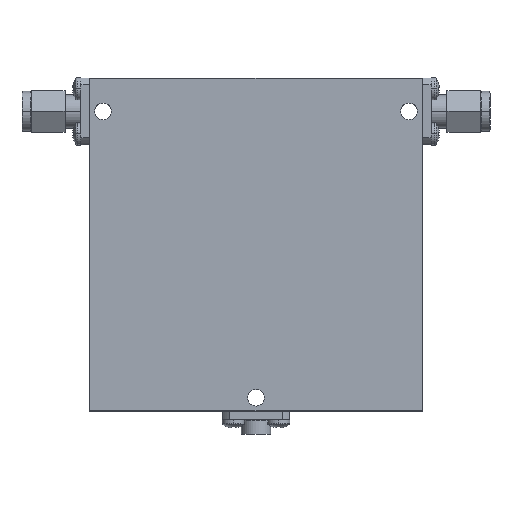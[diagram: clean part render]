
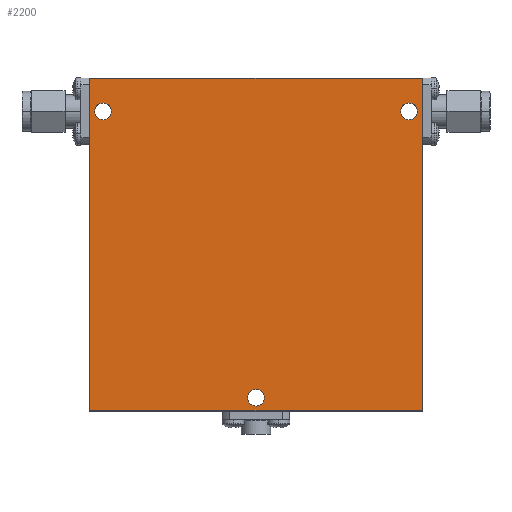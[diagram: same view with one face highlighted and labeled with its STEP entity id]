
A CAD part, top view. The second image highlights one B-rep face of the part: STEP entity #2200.
In plain terms, the highlighted planar face has unit normal (0, 0, 1).
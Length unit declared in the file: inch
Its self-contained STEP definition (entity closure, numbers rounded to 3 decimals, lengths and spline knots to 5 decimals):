
#47 = CARTESIAN_POINT ( 'NONE',  ( -1.25, 1.25, 0.275 ) ) ;
#88 = EDGE_CURVE ( 'NONE', #2143, #2482, #2778, .T. ) ;
#152 = ORIENTED_EDGE ( 'NONE', *, *, #88, .F. ) ;
#171 = VECTOR ( 'NONE', #2006, 39.37008 ) ;
#174 = FACE_BOUND ( 'NONE', #1370, .T. ) ;
#177 = VERTEX_POINT ( 'NONE', #2881 ) ;
#213 = VECTOR ( 'NONE', #3117, 39.37008 ) ;
#262 = DIRECTION ( 'NONE',  ( 0., 0., 1. ) ) ;
#304 = ORIENTED_EDGE ( 'NONE', *, *, #2964, .T. ) ;
#355 = CARTESIAN_POINT ( 'NONE',  ( 0., -1.15, 0.275 ) ) ;
#366 = CIRCLE ( 'NONE', #1404, 0.0625 ) ;
#547 = ORIENTED_EDGE ( 'NONE', *, *, #2634, .F. ) ;
#579 = DIRECTION ( 'NONE',  ( 1., 0., 0. ) ) ;
#586 = DIRECTION ( 'NONE',  ( 1., 0., 0. ) ) ;
#636 = AXIS2_PLACEMENT_3D ( 'NONE', #819, #2420, #1109 ) ;
#666 = CARTESIAN_POINT ( 'NONE',  ( 1.0875, 1., 0.275 ) ) ;
#769 = LINE ( 'NONE', #3933, #4088 ) ;
#818 = VECTOR ( 'NONE', #3071, 39.37008 ) ;
#819 = CARTESIAN_POINT ( 'NONE',  ( 0., -1.15, 0.275 ) ) ;
#840 = DIRECTION ( 'NONE',  ( 1., 0., 0. ) ) ;
#860 = VERTEX_POINT ( 'NONE', #1302 ) ;
#874 = DIRECTION ( 'NONE',  ( 0., 0., 1. ) ) ;
#900 = CARTESIAN_POINT ( 'NONE',  ( 1.15, 1., 0.275 ) ) ;
#968 = DIRECTION ( 'NONE',  ( 0., 0., 1. ) ) ;
#1032 = DIRECTION ( 'NONE',  ( 1., 0., 0. ) ) ;
#1094 = CARTESIAN_POINT ( 'NONE',  ( -1.25, -1.25, 0.275 ) ) ;
#1105 = ORIENTED_EDGE ( 'NONE', *, *, #1728, .F. ) ;
#1109 = DIRECTION ( 'NONE',  ( 1., 0., 0. ) ) ;
#1129 = ORIENTED_EDGE ( 'NONE', *, *, #3848, .F. ) ;
#1302 = CARTESIAN_POINT ( 'NONE',  ( 1.25, -1.25, 0.275 ) ) ;
#1353 = VERTEX_POINT ( 'NONE', #3334 ) ;
#1370 = EDGE_LOOP ( 'NONE', ( #2843, #1105 ) ) ;
#1385 = LINE ( 'NONE', #2147, #818 ) ;
#1404 = AXIS2_PLACEMENT_3D ( 'NONE', #2897, #968, #3589 ) ;
#1538 = FACE_OUTER_BOUND ( 'NONE', #3000, .T. ) ;
#1717 = AXIS2_PLACEMENT_3D ( 'NONE', #3706, #3408, #840 ) ;
#1728 = EDGE_CURVE ( 'NONE', #2573, #177, #2458, .T. ) ;
#1733 = ORIENTED_EDGE ( 'NONE', *, *, #2148, .T. ) ;
#1824 = CARTESIAN_POINT ( 'NONE',  ( -1.2125, 1., 0.275 ) ) ;
#1936 = EDGE_CURVE ( 'NONE', #3425, #3194, #2242, .T. ) ;
#1955 = DIRECTION ( 'NONE',  ( 0., 0., 1. ) ) ;
#1974 = LINE ( 'NONE', #1094, #171 ) ;
#2006 = DIRECTION ( 'NONE',  ( 1., 0., 0. ) ) ;
#2137 = ORIENTED_EDGE ( 'NONE', *, *, #1936, .F. ) ;
#2143 = VERTEX_POINT ( 'NONE', #1824 ) ;
#2144 = AXIS2_PLACEMENT_3D ( 'NONE', #900, #874, #586 ) ;
#2147 = CARTESIAN_POINT ( 'NONE',  ( -1.25, 1.25, 0.275 ) ) ;
#2148 = EDGE_CURVE ( 'NONE', #2616, #2819, #1385, .T. ) ;
#2200 = ADVANCED_FACE ( 'NONE', ( #174, #2780, #2236, #1538 ), #3083, .T. ) ;
#2232 = LINE ( 'NONE', #3728, #213 ) ;
#2236 = FACE_BOUND ( 'NONE', #4025, .T. ) ;
#2237 = CARTESIAN_POINT ( 'NONE',  ( -1.0875, 1., 0.275 ) ) ;
#2242 = CIRCLE ( 'NONE', #3563, 0.0625 ) ;
#2367 = ORIENTED_EDGE ( 'NONE', *, *, #2796, .T. ) ;
#2419 = CARTESIAN_POINT ( 'NONE',  ( -1.25, -1.25, 0.275 ) ) ;
#2420 = DIRECTION ( 'NONE',  ( 0., 0., 1. ) ) ;
#2458 = CIRCLE ( 'NONE', #3031, 0.0625 ) ;
#2482 = VERTEX_POINT ( 'NONE', #2237 ) ;
#2573 = VERTEX_POINT ( 'NONE', #666 ) ;
#2575 = CIRCLE ( 'NONE', #2144, 0.0625 ) ;
#2616 = VERTEX_POINT ( 'NONE', #47 ) ;
#2634 = EDGE_CURVE ( 'NONE', #2482, #2143, #366, .T. ) ;
#2650 = EDGE_CURVE ( 'NONE', #2819, #860, #1974, .T. ) ;
#2778 = CIRCLE ( 'NONE', #3737, 0.0625 ) ;
#2780 = FACE_BOUND ( 'NONE', #3308, .T. ) ;
#2796 = EDGE_CURVE ( 'NONE', #860, #1353, #769, .T. ) ;
#2819 = VERTEX_POINT ( 'NONE', #2419 ) ;
#2825 = CIRCLE ( 'NONE', #636, 0.0625 ) ;
#2843 = ORIENTED_EDGE ( 'NONE', *, *, #3433, .F. ) ;
#2881 = CARTESIAN_POINT ( 'NONE',  ( 1.2125, 1., 0.275 ) ) ;
#2897 = CARTESIAN_POINT ( 'NONE',  ( -1.15, 1., 0.275 ) ) ;
#2919 = DIRECTION ( 'NONE',  ( 1., 0., 0. ) ) ;
#2964 = EDGE_CURVE ( 'NONE', #1353, #2616, #2232, .T. ) ;
#3000 = EDGE_LOOP ( 'NONE', ( #2367, #304, #1733, #3148 ) ) ;
#3008 = CARTESIAN_POINT ( 'NONE',  ( 0.0625, -1.15, 0.275 ) ) ;
#3031 = AXIS2_PLACEMENT_3D ( 'NONE', #3201, #3492, #2919 ) ;
#3071 = DIRECTION ( 'NONE',  ( 0., -1., 0. ) ) ;
#3083 = PLANE ( 'NONE',  #1717 ) ;
#3117 = DIRECTION ( 'NONE',  ( -1., 0., 0. ) ) ;
#3148 = ORIENTED_EDGE ( 'NONE', *, *, #2650, .T. ) ;
#3192 = CARTESIAN_POINT ( 'NONE',  ( -1.15, 1., 0.275 ) ) ;
#3194 = VERTEX_POINT ( 'NONE', #3203 ) ;
#3201 = CARTESIAN_POINT ( 'NONE',  ( 1.15, 1., 0.275 ) ) ;
#3203 = CARTESIAN_POINT ( 'NONE',  ( -0.0625, -1.15, 0.275 ) ) ;
#3308 = EDGE_LOOP ( 'NONE', ( #2137, #1129 ) ) ;
#3334 = CARTESIAN_POINT ( 'NONE',  ( 1.25, 1.25, 0.275 ) ) ;
#3375 = DIRECTION ( 'NONE',  ( 0., 1., 0. ) ) ;
#3408 = DIRECTION ( 'NONE',  ( 0., 0., 1. ) ) ;
#3425 = VERTEX_POINT ( 'NONE', #3008 ) ;
#3433 = EDGE_CURVE ( 'NONE', #177, #2573, #2575, .T. ) ;
#3492 = DIRECTION ( 'NONE',  ( 0., 0., 1. ) ) ;
#3563 = AXIS2_PLACEMENT_3D ( 'NONE', #355, #1955, #1032 ) ;
#3589 = DIRECTION ( 'NONE',  ( 1., 0., 0. ) ) ;
#3706 = CARTESIAN_POINT ( 'NONE',  ( 0., 0., 0.275 ) ) ;
#3728 = CARTESIAN_POINT ( 'NONE',  ( -1.25, 1.25, 0.275 ) ) ;
#3737 = AXIS2_PLACEMENT_3D ( 'NONE', #3192, #262, #579 ) ;
#3848 = EDGE_CURVE ( 'NONE', #3194, #3425, #2825, .T. ) ;
#3933 = CARTESIAN_POINT ( 'NONE',  ( 1.25, 1.25, 0.275 ) ) ;
#4025 = EDGE_LOOP ( 'NONE', ( #547, #152 ) ) ;
#4088 = VECTOR ( 'NONE', #3375, 39.37008 ) ;
